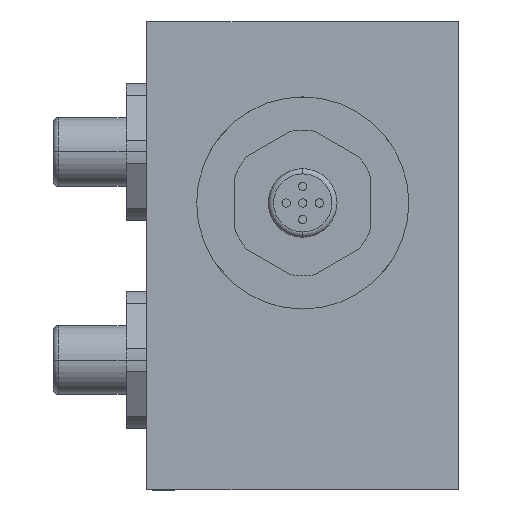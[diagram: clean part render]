
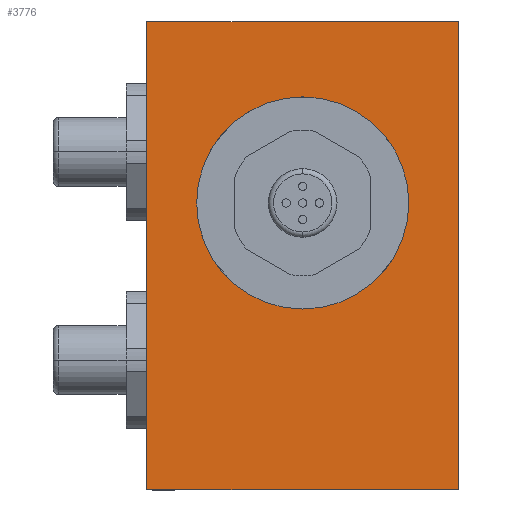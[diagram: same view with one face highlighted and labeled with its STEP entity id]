
A CAD part, left-side view. The second image highlights one B-rep face of the part: STEP entity #3776.
In plain terms, the highlighted planar face has unit normal (-1, 0, 0).
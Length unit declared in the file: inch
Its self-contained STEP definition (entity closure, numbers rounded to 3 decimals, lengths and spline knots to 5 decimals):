
#168 = CIRCLE ( 'NONE', #6201, 0.51 ) ;
#185 = EDGE_CURVE ( 'NONE', #9280, #8907, #2813, .T. ) ;
#398 = PLANE ( 'NONE',  #7002 ) ;
#436 = DIRECTION ( 'NONE',  ( -1., 0., 0. ) ) ;
#493 = DIRECTION ( 'NONE',  ( 0., -1., 0. ) ) ;
#906 = VECTOR ( 'NONE', #7422, 39.37008 ) ;
#1055 = CARTESIAN_POINT ( 'NONE',  ( -3.375, -0.75, -2.25 ) ) ;
#1253 = VERTEX_POINT ( 'NONE', #6519 ) ;
#1677 = ORIENTED_EDGE ( 'NONE', *, *, #6350, .F. ) ;
#1808 = ORIENTED_EDGE ( 'NONE', *, *, #4767, .T. ) ;
#2409 = LINE ( 'NONE', #4092, #906 ) ;
#2428 = DIRECTION ( 'NONE',  ( 0., -1., 0. ) ) ;
#2792 = DIRECTION ( 'NONE',  ( -1., 0., 0. ) ) ;
#2813 = LINE ( 'NONE', #4575, #5328 ) ;
#3013 = VECTOR ( 'NONE', #2428, 39.37008 ) ;
#3031 = DIRECTION ( 'NONE',  ( 0., 0., 1. ) ) ;
#3110 = CARTESIAN_POINT ( 'NONE',  ( -3.375, 0.75, 0. ) ) ;
#3376 = ORIENTED_EDGE ( 'NONE', *, *, #7307, .F. ) ;
#3631 = DIRECTION ( 'NONE',  ( 0., -1., 0. ) ) ;
#3776 = ADVANCED_FACE ( 'NONE', ( #9209, #5075 ), #398, .T. ) ;
#3936 = ORIENTED_EDGE ( 'NONE', *, *, #9452, .F. ) ;
#4092 = CARTESIAN_POINT ( 'NONE',  ( -3.375, 0.75, -2.25 ) ) ;
#4266 = VERTEX_POINT ( 'NONE', #5797 ) ;
#4329 = EDGE_LOOP ( 'NONE', ( #1677, #3376, #1808, #9642 ) ) ;
#4575 = CARTESIAN_POINT ( 'NONE',  ( -3.375, -0.75, -2.25 ) ) ;
#4767 = EDGE_CURVE ( 'NONE', #4266, #9280, #6325, .T. ) ;
#4823 = CARTESIAN_POINT ( 'NONE',  ( -3.375, 0.75, -2.25 ) ) ;
#5075 = FACE_OUTER_BOUND ( 'NONE', #4329, .T. ) ;
#5213 = DIRECTION ( 'NONE',  ( -1., 0., 0. ) ) ;
#5273 = CARTESIAN_POINT ( 'NONE',  ( -3.375, 0., -0.87 ) ) ;
#5322 = CARTESIAN_POINT ( 'NONE',  ( -3.375, 0., -0.87 ) ) ;
#5328 = VECTOR ( 'NONE', #3031, 39.37008 ) ;
#5424 = ORIENTED_EDGE ( 'NONE', *, *, #6639, .F. ) ;
#5656 = AXIS2_PLACEMENT_3D ( 'NONE', #5322, #436, #3631 ) ;
#5797 = CARTESIAN_POINT ( 'NONE',  ( -3.375, 0.75, -2.25 ) ) ;
#6018 = LINE ( 'NONE', #3110, #3013 ) ;
#6024 = DIRECTION ( 'NONE',  ( 0., -1., 0. ) ) ;
#6187 = EDGE_LOOP ( 'NONE', ( #3936, #5424 ) ) ;
#6201 = AXIS2_PLACEMENT_3D ( 'NONE', #5273, #5213, #493 ) ;
#6325 = LINE ( 'NONE', #4823, #7751 ) ;
#6350 = EDGE_CURVE ( 'NONE', #7506, #8907, #6018, .T. ) ;
#6519 = CARTESIAN_POINT ( 'NONE',  ( -3.375, 0.51, -0.87 ) ) ;
#6639 = EDGE_CURVE ( 'NONE', #1253, #10040, #168, .T. ) ;
#7002 = AXIS2_PLACEMENT_3D ( 'NONE', #9286, #2792, #6024 ) ;
#7307 = EDGE_CURVE ( 'NONE', #4266, #7506, #2409, .T. ) ;
#7422 = DIRECTION ( 'NONE',  ( 0., 0., 1. ) ) ;
#7506 = VERTEX_POINT ( 'NONE', #7829 ) ;
#7698 = CIRCLE ( 'NONE', #5656, 0.51 ) ;
#7751 = VECTOR ( 'NONE', #8955, 39.37008 ) ;
#7829 = CARTESIAN_POINT ( 'NONE',  ( -3.375, 0.75, 0. ) ) ;
#8907 = VERTEX_POINT ( 'NONE', #9271 ) ;
#8955 = DIRECTION ( 'NONE',  ( 0., -1., 0. ) ) ;
#9209 = FACE_BOUND ( 'NONE', #6187, .T. ) ;
#9271 = CARTESIAN_POINT ( 'NONE',  ( -3.375, -0.75, 0. ) ) ;
#9280 = VERTEX_POINT ( 'NONE', #1055 ) ;
#9286 = CARTESIAN_POINT ( 'NONE',  ( -3.375, 0.75, -2.25 ) ) ;
#9452 = EDGE_CURVE ( 'NONE', #10040, #1253, #7698, .T. ) ;
#9642 = ORIENTED_EDGE ( 'NONE', *, *, #185, .T. ) ;
#10040 = VERTEX_POINT ( 'NONE', #10471 ) ;
#10471 = CARTESIAN_POINT ( 'NONE',  ( -3.375, -0.51, -0.87 ) ) ;
